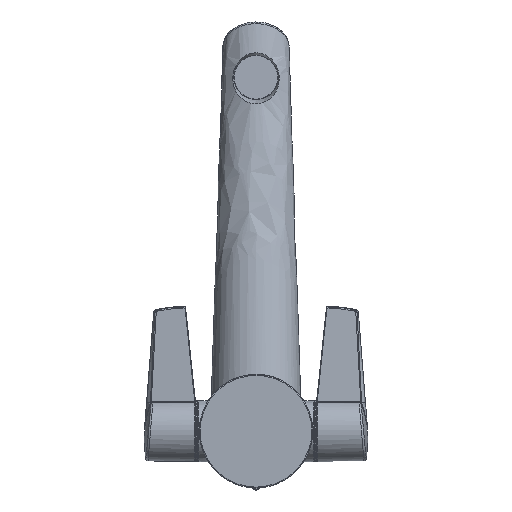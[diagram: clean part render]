
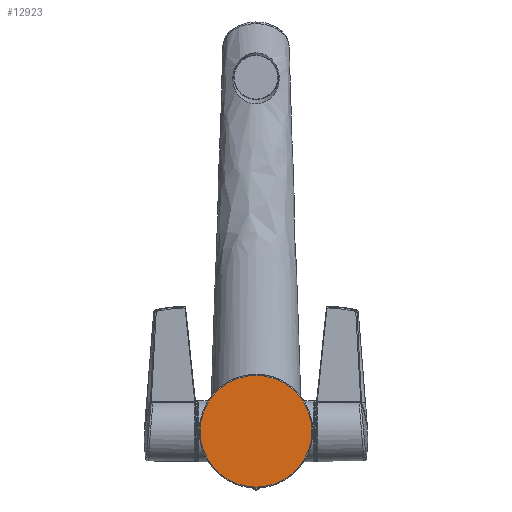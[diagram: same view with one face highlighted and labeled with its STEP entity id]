
A CAD part, front view. The second image highlights one B-rep face of the part: STEP entity #12923.
In plain terms, the highlighted planar face has unit normal (0, -1, 0).
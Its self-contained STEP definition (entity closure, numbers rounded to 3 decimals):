
#1386 = EDGE_LOOP ( 'NONE', ( #11887 ) ) ;
#7262 = PLANE ( 'NONE',  #7737 ) ;
#7737 = AXIS2_PLACEMENT_3D ( 'NONE', #9369, #28169, #14463 ) ;
#9369 = CARTESIAN_POINT ( 'NONE',  ( 0., 0., 0. ) ) ;
#10552 = FACE_OUTER_BOUND ( 'NONE', #1386, .T. ) ;
#10837 = CARTESIAN_POINT ( 'NONE',  ( 0., 0., 0. ) ) ;
#11887 = ORIENTED_EDGE ( 'NONE', *, *, #27450, .T. ) ;
#12923 = ADVANCED_FACE ( 'NONE', ( #10552 ), #7262, .T. ) ;
#13209 = DIRECTION ( 'NONE',  ( -1., 0., 0. ) ) ;
#14012 = VERTEX_POINT ( 'NONE', #27114 ) ;
#14463 = DIRECTION ( 'NONE',  ( -1., 0., 0. ) ) ;
#18532 = CIRCLE ( 'NONE', #20813, 30.488 ) ;
#20813 = AXIS2_PLACEMENT_3D ( 'NONE', #10837, #26985, #13209 ) ;
#26985 = DIRECTION ( 'NONE',  ( 0., -1., 0. ) ) ;
#27114 = CARTESIAN_POINT ( 'NONE',  ( -30.488, 0., 0. ) ) ;
#27450 = EDGE_CURVE ( 'NONE', #14012, #14012, #18532, .T. ) ;
#28169 = DIRECTION ( 'NONE',  ( 0., -1., 0. ) ) ;
